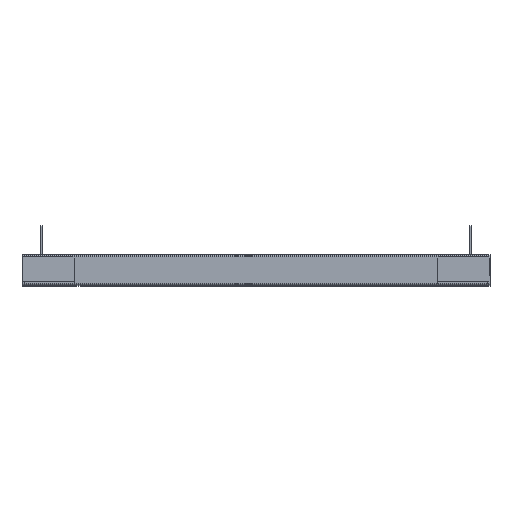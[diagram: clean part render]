
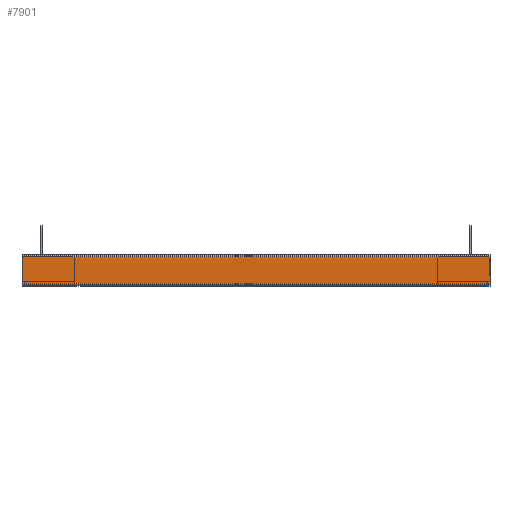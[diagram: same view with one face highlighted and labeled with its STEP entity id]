
A CAD part, top view. The second image highlights one B-rep face of the part: STEP entity #7901.
In plain terms, the highlighted planar face has unit normal (0, 0, 1) as drawn and (0, 1, 0) by its records, which use the part's own axes.
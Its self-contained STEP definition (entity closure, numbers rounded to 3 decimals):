
#165 = LINE ( 'NONE', #4066, #8943 ) ;
#477 = DIRECTION ( 'NONE',  ( -1., 0., 0. ) ) ;
#875 = EDGE_LOOP ( 'NONE', ( #1381, #3804, #6980, #5236 ) ) ;
#1067 = CARTESIAN_POINT ( 'NONE',  ( -16.65, 50., -290. ) ) ;
#1168 = VERTEX_POINT ( 'NONE', #8172 ) ;
#1315 = CARTESIAN_POINT ( 'NONE',  ( -19., 50., 290. ) ) ;
#1381 = ORIENTED_EDGE ( 'NONE', *, *, #5804, .F. ) ;
#1753 = LINE ( 'NONE', #10365, #1813 ) ;
#1813 = VECTOR ( 'NONE', #3139, 1000. ) ;
#1890 = VECTOR ( 'NONE', #477, 1000. ) ;
#3139 = DIRECTION ( 'NONE',  ( 0., 0., -1. ) ) ;
#3804 = ORIENTED_EDGE ( 'NONE', *, *, #10260, .T. ) ;
#3956 = DIRECTION ( 'NONE',  ( 0., -1., 0. ) ) ;
#4066 = CARTESIAN_POINT ( 'NONE',  ( -19., 50., -290. ) ) ;
#4478 = VECTOR ( 'NONE', #6566, 1000. ) ;
#4515 = CARTESIAN_POINT ( 'NONE',  ( 16.65, 50., 290. ) ) ;
#5236 = ORIENTED_EDGE ( 'NONE', *, *, #6689, .T. ) ;
#5458 = CARTESIAN_POINT ( 'NONE',  ( -16.65, 50., 290. ) ) ;
#5576 = FACE_OUTER_BOUND ( 'NONE', #875, .T. ) ;
#5693 = EDGE_CURVE ( 'NONE', #1168, #8870, #165, .T. ) ;
#5804 = EDGE_CURVE ( 'NONE', #7650, #9400, #8437, .T. ) ;
#5920 = LINE ( 'NONE', #9151, #4478 ) ;
#6566 = DIRECTION ( 'NONE',  ( 0., 0., 1. ) ) ;
#6689 = EDGE_CURVE ( 'NONE', #8870, #9400, #5920, .T. ) ;
#6980 = ORIENTED_EDGE ( 'NONE', *, *, #5693, .T. ) ;
#7163 = DIRECTION ( 'NONE',  ( 0., 0., -1. ) ) ;
#7650 = VERTEX_POINT ( 'NONE', #4515 ) ;
#7901 = ADVANCED_FACE ( 'NONE', ( #5576 ), #8946, .F. ) ;
#7964 = CARTESIAN_POINT ( 'NONE',  ( -19., 50., 290. ) ) ;
#8172 = CARTESIAN_POINT ( 'NONE',  ( 16.65, 50., -290. ) ) ;
#8437 = LINE ( 'NONE', #1315, #1890 ) ;
#8817 = DIRECTION ( 'NONE',  ( -1., 0., 0. ) ) ;
#8870 = VERTEX_POINT ( 'NONE', #1067 ) ;
#8943 = VECTOR ( 'NONE', #8817, 1000. ) ;
#8946 = PLANE ( 'NONE',  #9267 ) ;
#9151 = CARTESIAN_POINT ( 'NONE',  ( -16.65, 50., 290. ) ) ;
#9267 = AXIS2_PLACEMENT_3D ( 'NONE', #7964, #3956, #7163 ) ;
#9400 = VERTEX_POINT ( 'NONE', #5458 ) ;
#10260 = EDGE_CURVE ( 'NONE', #7650, #1168, #1753, .T. ) ;
#10365 = CARTESIAN_POINT ( 'NONE',  ( 16.65, 50., 290. ) ) ;
